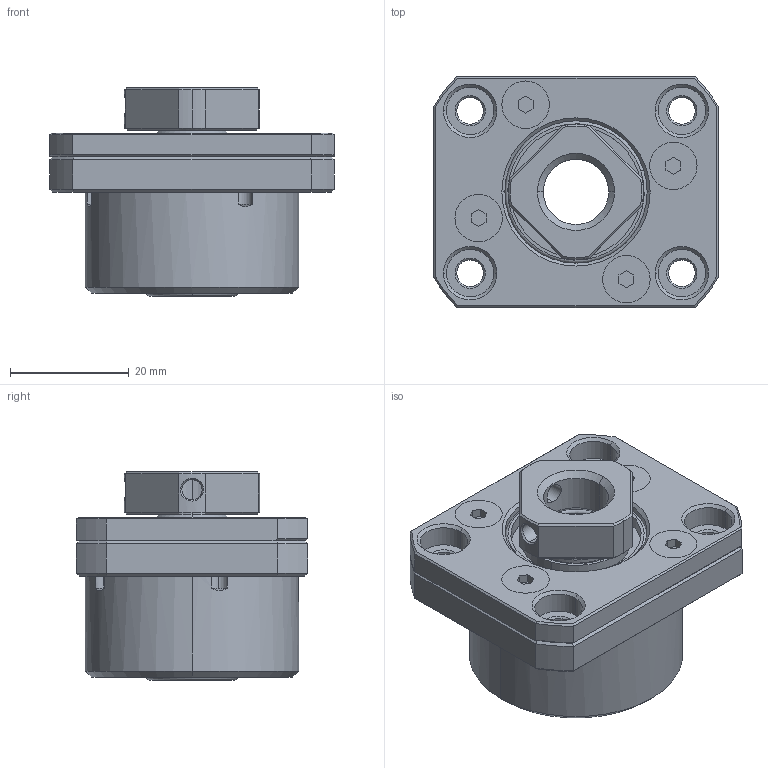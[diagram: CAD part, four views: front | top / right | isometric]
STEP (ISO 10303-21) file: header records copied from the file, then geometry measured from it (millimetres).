
FILE_DESCRIPTION (( 'STEP AP203' ), '1' );
FILE_NAME ('FKA12²Õ¦X¥óA.STEP', '2021-09-29T02:51:56', ( '' ), ( '' ), 'SwSTEP 2.0', 'SolidWorks 2018', '' );
FILE_SCHEMA (( 'CONFIG_CONTROL_DESIGN' ));
Length unit declared in the file: millimetre
Products named in the file (1): FKA12組合件A
Bounding box: 48 x 39 x 35.1 mm (x, y, z)
Surface area: 13452.3 mm2 (no closed solid volume)
Topology: 0 solids, 19 shells, 239 faces, 614 edges, 393 vertices
Faces by surface type: plane 84, cylinder 71, cone 60, torus 20, bspline 4
Entity records: 7877 total; most frequent: CARTESIAN_POINT 1893, DIRECTION 1319, ORIENTED_EDGE 1113, EDGE_CURVE 614, AXIS2_PLACEMENT_3D 535, VERTEX_POINT 393, CIRCLE 299, EDGE_LOOP 285
